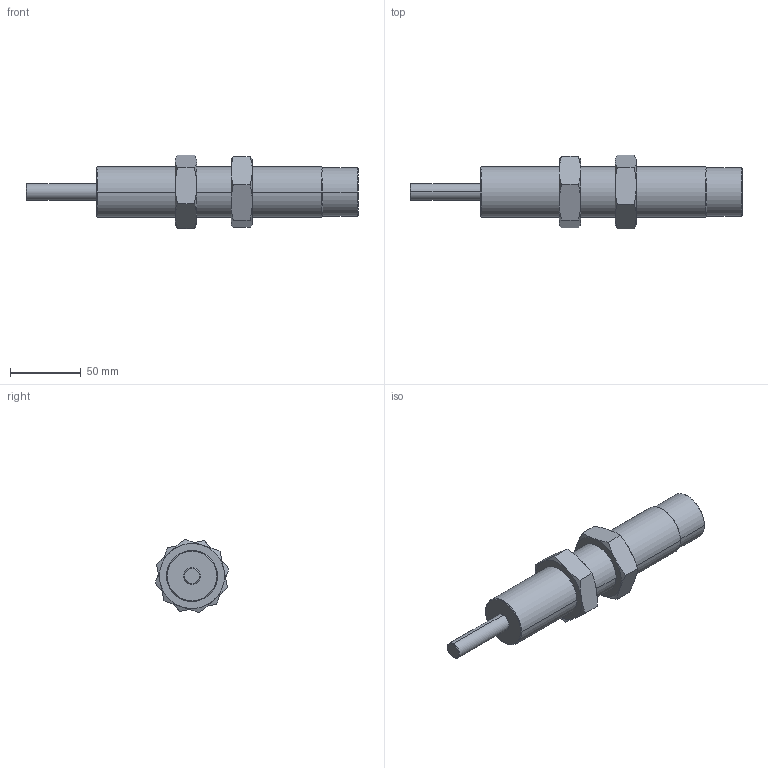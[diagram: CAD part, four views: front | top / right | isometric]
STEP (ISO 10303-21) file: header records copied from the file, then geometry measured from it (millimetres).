
FILE_DESCRIPTION (( 'STEP AP203' ), '1' );
FILE_NAME ('FSA-3650CC.STEP', '2016-03-17T07:49:58', ( 'Sam Lin' ), ( '' ), 'SwSTEP 2.0', 'SolidWorks 2013', '' );
FILE_SCHEMA (( 'CONFIG_CONTROL_DESIGN' ));
Length unit declared in the file: metre
Products named in the file (3): FSA-3650CC_1; M36x1.5-15mm_1; FSA-3650CC
Assembly tree (3 placements, depth 2):
  FSA-3650CC
    FSA-3650CC_1
    M36x1.5-15mm_1  x2
Bounding box: 235 x 52.14 x 52.04 mm (x, y, z)
Volume: 215322.9 mm3; surface area: 35752.4 mm2
Topology: 3 solids, 3 shells, 62 faces, 136 edges, 82 vertices
Faces by surface type: bspline 24, plane 20, cylinder 10, cone 8
Entity records: 1767 total; most frequent: CARTESIAN_POINT 656, ORIENTED_EDGE 176, DIRECTION 150, EDGE_CURVE 88, AXIS2_PLACEMENT_3D 64, VERTEX_POINT 54, EDGE_LOOP 44, FACE_OUTER_BOUND 40
